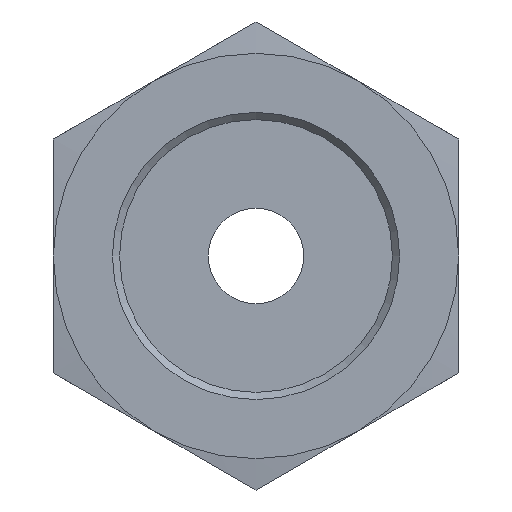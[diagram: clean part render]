
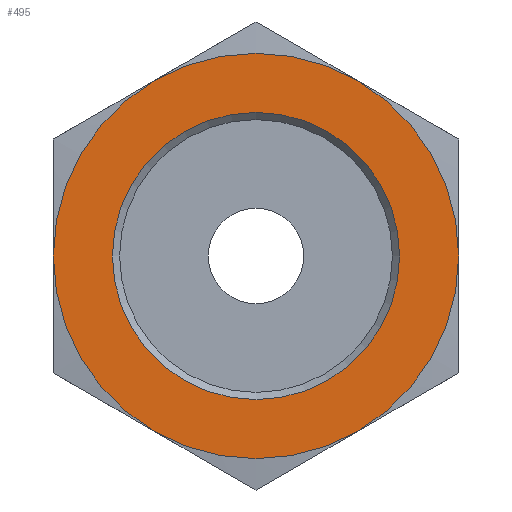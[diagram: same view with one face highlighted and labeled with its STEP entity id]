
A CAD part, front view. The second image highlights one B-rep face of the part: STEP entity #495.
In plain terms, the highlighted planar face has unit normal (0, -1, 0).
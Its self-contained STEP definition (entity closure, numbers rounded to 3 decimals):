
#55=FACE_BOUND('',#124,.T.);
#63=PLANE('',#571);
#85=FACE_OUTER_BOUND('',#123,.T.);
#123=EDGE_LOOP('',(#373,#374,#375,#376,#377,#378));
#124=EDGE_LOOP('',(#379));
#199=CIRCLE('',#566,6.023);
#203=CIRCLE('',#572,8.5);
#204=CIRCLE('',#573,8.5);
#205=CIRCLE('',#574,8.5);
#206=CIRCLE('',#575,8.5);
#207=CIRCLE('',#576,8.5);
#208=CIRCLE('',#577,8.5);
#231=VERTEX_POINT('',#807);
#235=VERTEX_POINT('',#819);
#236=VERTEX_POINT('',#820);
#237=VERTEX_POINT('',#822);
#238=VERTEX_POINT('',#824);
#239=VERTEX_POINT('',#826);
#240=VERTEX_POINT('',#828);
#280=EDGE_CURVE('',#231,#231,#199,.T.);
#286=EDGE_CURVE('',#235,#236,#203,.T.);
#287=EDGE_CURVE('',#236,#237,#204,.T.);
#288=EDGE_CURVE('',#237,#238,#205,.T.);
#289=EDGE_CURVE('',#238,#239,#206,.T.);
#290=EDGE_CURVE('',#239,#240,#207,.T.);
#291=EDGE_CURVE('',#240,#235,#208,.T.);
#373=ORIENTED_EDGE('',*,*,#286,.T.);
#374=ORIENTED_EDGE('',*,*,#287,.T.);
#375=ORIENTED_EDGE('',*,*,#288,.T.);
#376=ORIENTED_EDGE('',*,*,#289,.T.);
#377=ORIENTED_EDGE('',*,*,#290,.T.);
#378=ORIENTED_EDGE('',*,*,#291,.T.);
#379=ORIENTED_EDGE('',*,*,#280,.F.);
#495=ADVANCED_FACE('',(#85,#55),#63,.F.);
#566=AXIS2_PLACEMENT_3D('',#808,#662,#663);
#571=AXIS2_PLACEMENT_3D('',#818,#674,#675);
#572=AXIS2_PLACEMENT_3D('',#821,#676,#677);
#573=AXIS2_PLACEMENT_3D('',#823,#678,#679);
#574=AXIS2_PLACEMENT_3D('',#825,#680,#681);
#575=AXIS2_PLACEMENT_3D('',#827,#682,#683);
#576=AXIS2_PLACEMENT_3D('',#829,#684,#685);
#577=AXIS2_PLACEMENT_3D('',#830,#686,#687);
#662=DIRECTION('center_axis',(0.,-1.,0.));
#663=DIRECTION('ref_axis',(-1.,0.,0.));
#674=DIRECTION('center_axis',(0.,1.,0.));
#675=DIRECTION('ref_axis',(0.,0.,1.));
#676=DIRECTION('center_axis',(0.,-1.,0.));
#677=DIRECTION('ref_axis',(1.,0.,0.));
#678=DIRECTION('center_axis',(0.,-1.,0.));
#679=DIRECTION('ref_axis',(1.,0.,0.));
#680=DIRECTION('center_axis',(0.,-1.,0.));
#681=DIRECTION('ref_axis',(1.,0.,0.));
#682=DIRECTION('center_axis',(0.,-1.,0.));
#683=DIRECTION('ref_axis',(1.,0.,0.));
#684=DIRECTION('center_axis',(0.,-1.,0.));
#685=DIRECTION('ref_axis',(1.,0.,0.));
#686=DIRECTION('center_axis',(0.,-1.,0.));
#687=DIRECTION('ref_axis',(1.,0.,0.));
#807=CARTESIAN_POINT('',(6.023,0.,0.));
#808=CARTESIAN_POINT('Origin',(0.,0.,0.));
#818=CARTESIAN_POINT('Origin',(0.,0.,0.));
#819=CARTESIAN_POINT('',(-8.5,0.,0.));
#820=CARTESIAN_POINT('',(-4.25,0.,-7.361));
#821=CARTESIAN_POINT('Origin',(0.,0.,0.));
#822=CARTESIAN_POINT('',(4.25,0.,-7.361));
#823=CARTESIAN_POINT('Origin',(0.,0.,0.));
#824=CARTESIAN_POINT('',(8.5,0.,0.));
#825=CARTESIAN_POINT('Origin',(0.,0.,0.));
#826=CARTESIAN_POINT('',(4.25,0.,7.361));
#827=CARTESIAN_POINT('Origin',(0.,0.,0.));
#828=CARTESIAN_POINT('',(-4.25,0.,7.361));
#829=CARTESIAN_POINT('Origin',(0.,0.,0.));
#830=CARTESIAN_POINT('Origin',(0.,0.,0.));
